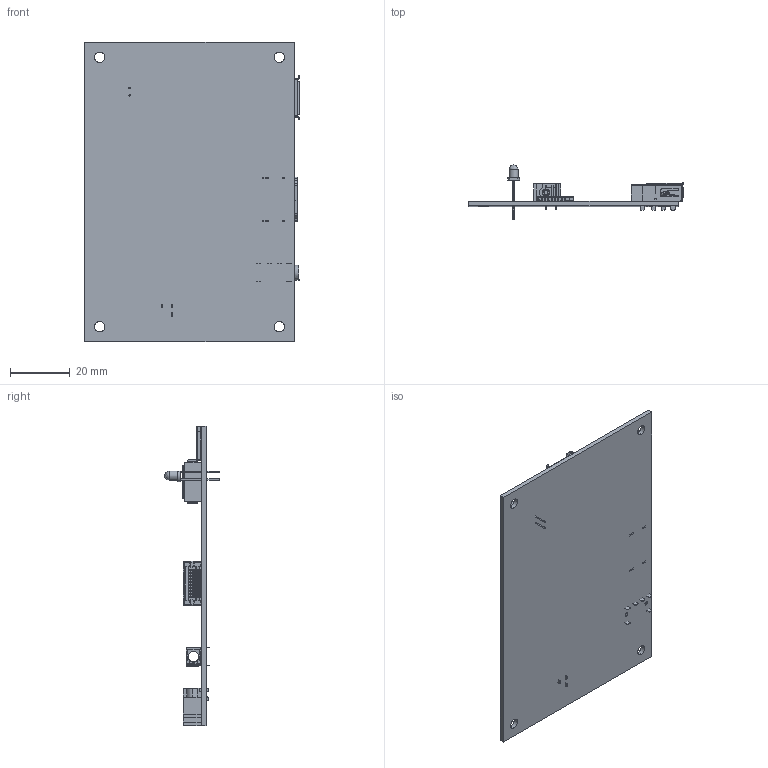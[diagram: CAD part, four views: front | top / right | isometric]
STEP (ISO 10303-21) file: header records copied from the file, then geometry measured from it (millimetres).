
FILE_DESCRIPTION (( 'STEP AP203' ), '1' );
FILE_NAME ('1-20 PCB Assembly.STEP', '2020-01-25T06:59:37', ( '' ), ( '' ), 'SwSTEP 2.0', 'SolidWorks 2019', '' );
FILE_SCHEMA (( 'CONFIG_CONTROL_DESIGN' ));
Length unit declared in the file: millimetre
Products named in the file (12): molex_0471510001; pj-041h_02_D‚faut; 1-20 Board; MOLEX_1040310811; 1-20 PCB Assembly; raspberry_pi_B+_(USB_x2_part1)___ _________; 3mm LED Red; 3.5mm Headphone Socket FC68128; pj-041h_01_D‚faut; pj-041h_03_D‚faut; pj-041h_04_D‚faut; pj-041h_DＧaut
Assembly tree (11 placements, depth 3):
  1-20 PCB Assembly
    1-20 Board
    raspberry_pi_B+_(USB_x2_part1)___ _________
    3mm LED Red
    3.5mm Headphone Socket FC68128
    pj-041h_DＧaut
      pj-041h_01_D‚faut
      pj-041h_02_D‚faut
      pj-041h_03_D‚faut
      pj-041h_04_D‚faut
    molex_0471510001
    MOLEX_1040310811
Bounding box: 71.7 x 18.2 x 100 mm (x, y, z)
Volume: 13207.2 mm3; surface area: 20567.7 mm2
Topology: 27 solids, 27 shells, 2198 faces, 6275 edges, 4104 vertices
Faces by surface type: plane 1496, cylinder 628, bspline 67, torus 4, cone 3
Entity records: 73589 total; most frequent: CARTESIAN_POINT 14588, ORIENTED_EDGE 12538, DIRECTION 11478, EDGE_CURVE 6269, LINE 4864, VECTOR 4864, VERTEX_POINT 4102, AXIS2_PLACEMENT_3D 3307
